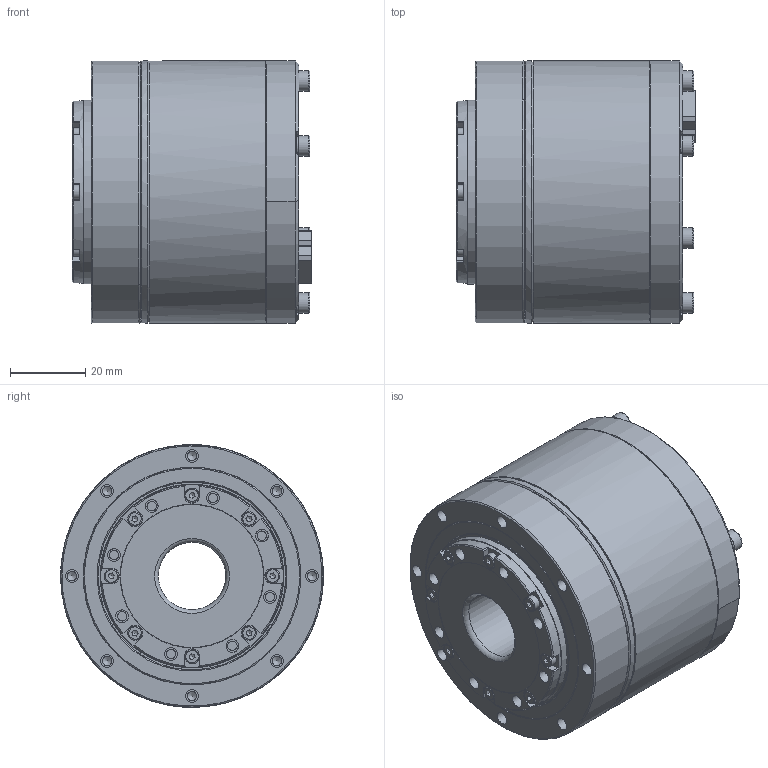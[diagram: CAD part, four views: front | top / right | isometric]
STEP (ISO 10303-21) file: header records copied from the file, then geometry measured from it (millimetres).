
FILE_DESCRIPTION (( 'STEP AP203' ), '1' );
FILE_NAME ('eRob70F｡ﾁ｡ﾁI-F-XX-18EX_V3_MC2A.AX.XX.STEP', '2025-04-03T03:19:31', ( 'Windows User' ), ( 'P R C' ), 'SwSTEP 2.0', 'SolidWorks 2021', '' );
FILE_SCHEMA (( 'CONFIG_CONTROL_DESIGN' ));
Length unit declared in the file: millimetre
Products named in the file (1): eRob70F××I-F-XX-18EX_V3_MC2A.AX.XX
Bounding box: 63.8 x 69.96 x 70 mm (x, y, z)
Volume: 201315.8 mm3; surface area: 32426.6 mm2
Topology: 1 solids, 1 shells, 1933 faces, 5261 edges, 3454 vertices
Faces by surface type: plane 1482, bspline 212, cylinder 169, cone 51, torus 19
Full cylindrical faces by diameter (mm): 1.5 x4, 1.55 x3, 1.6 x1, 2.5 x20, 3 x4, 3.4 x16, 3.8 x8, 5.5 x4, 18 x1, 48.6 x1, 49 x1, 50 x1, 58 x1, 70 x3
Entity records: 69819 total; most frequent: CARTESIAN_POINT 22843, ORIENTED_EDGE 10128, DIRECTION 8536, EDGE_CURVE 5064, VECTOR 4116, LINE 4116, VERTEX_POINT 3381, EDGE_LOOP 2267
